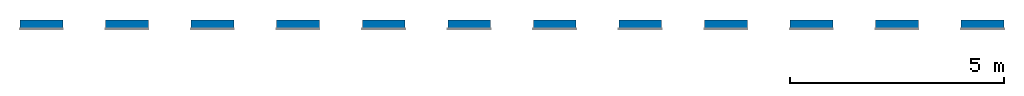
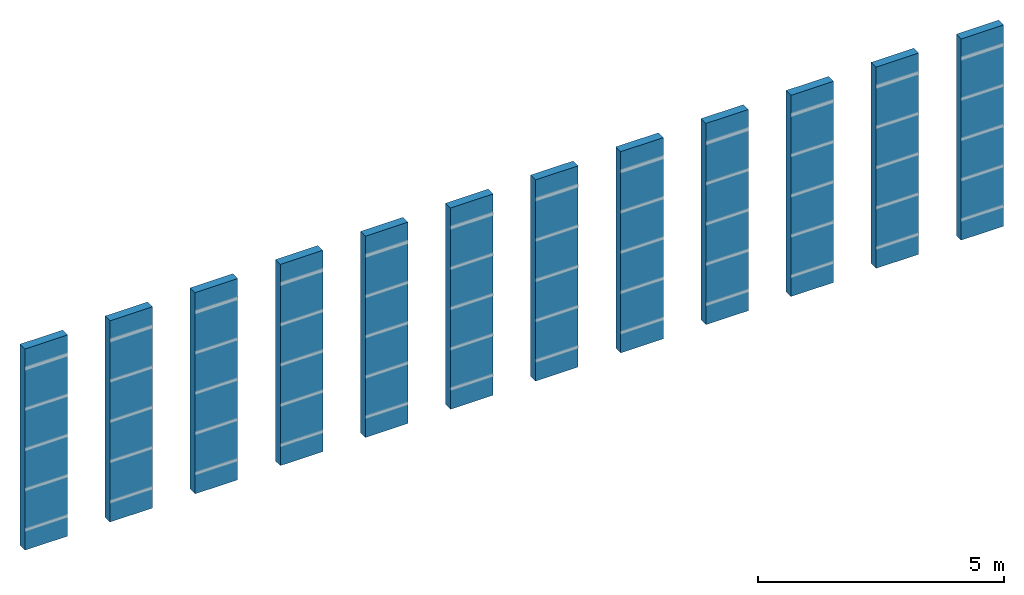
# One storey, part 1 of 4: 12 walls.
"""IFC2X3 building model written with IfcOpenShell, lengths in millimetres."""

import ifcopenshell
import ifcopenshell.guid

model = None  # the IFC model being written
_history = None  # IfcOwnerHistory: only IFC2X3 demands one
_inside = {}  # id of a spatial element -> (the spatial element, [elements in it])
_under = {}  # id of a project, library or spatial element -> (it, [spatial elements below it])
_declared = {}  # id of a project -> (the project, [libraries it declares])
_typed = {}  # id of a type object -> (the type object, [elements of that type])
_made_of = {}  # id of a material, layer set ... -> (it, [elements and type objects made of it])


def new_model(schema):
    """Start an empty IFC model of exactly this schema.

    Asked for "IFC4X3", IfcOpenShell would pick the latest addendum, in which some entities
    have other attributes; the version numbers below select the first issue.
    IFC2X3 requires an IfcOwnerHistory on every rooted entity: one is made here for all.
    """
    global model, _history
    if schema == "IFC4X3":
        model = ifcopenshell.file(schema_version=(4, 3, 0, 0))
    else:
        model = ifcopenshell.file(schema=schema)
    _inside.clear()
    _under.clear()
    _declared.clear()
    _typed.clear()
    _made_of.clear()
    _history = None
    if model.schema == "IFC2X3":
        org = make("IfcOrganization", Name="unknown")
        user = make(
            "IfcPersonAndOrganization",
            ThePerson=make("IfcPerson", FamilyName="unknown"),
            TheOrganization=org,
        )
        app = make(
            "IfcApplication",
            ApplicationDeveloper=org,
            Version="unknown",
            ApplicationFullName="unknown",
            ApplicationIdentifier="unknown",
        )
        _history = make(
            "IfcOwnerHistory",
            OwningUser=user,
            OwningApplication=app,
            ChangeAction="ADDED",
            CreationDate=0,
        )
    return model


def make(cls, **values):
    """One entity of the class cls with the attributes given. An attribute that is None is left unset."""
    return model.create_entity(
        cls, **{name: value for name, value in values.items() if value is not None}
    )


def entity(cls, *values):
    """Any entity or typed value of the class cls, its attributes in the order of the schema. None: left unset."""
    e = model.create_entity(cls)
    for i, value in enumerate(values):
        if value is not None:
            e[i] = value
    return e


def rooted(cls, **values):
    """An entity with a GlobalId (a new one), such as an element, a storey or a relation."""
    return make(cls, GlobalId=ifcopenshell.guid.new(), OwnerHistory=_history, **values)


def si_unit(unit_type, name, prefix=None):
    """IfcSIUnit, for example si_unit("LENGTHUNIT", "METRE", prefix="MILLI")."""
    return make("IfcSIUnit", UnitType=unit_type, Prefix=prefix, Name=name)


def converted_unit(unit_type, name, factor, base, dimensions=None, offset=None):
    """IfcConversionBasedUnit, such as the inch: factor (a typed value) times the base unit."""
    return make(
        "IfcConversionBasedUnit"
        if offset is None
        else "IfcConversionBasedUnitWithOffset",
        ConversionOffset=offset,
        Dimensions=None
        if dimensions is None
        else entity("IfcDimensionalExponents", *dimensions),
        UnitType=unit_type,
        Name=name,
        ConversionFactor=make(
            "IfcMeasureWithUnit", ValueComponent=factor, UnitComponent=base
        ),
    )


def derived_unit(unit_type, elements):
    """IfcDerivedUnit: a product of units, each with its exponent."""
    return make(
        "IfcDerivedUnit",
        Elements=[
            make("IfcDerivedUnitElement", Unit=unit, Exponent=power)
            for unit, power in elements
        ],
        UnitType=unit_type,
    )


def assignment(units):
    """IfcUnitAssignment: the units of a project."""
    return None if units is None else make("IfcUnitAssignment", Units=units)


def point(xyz):
    """IfcCartesianPoint."""
    return None if xyz is None else make("IfcCartesianPoint", Coordinates=xyz)


def direction(xyz):
    """IfcDirection."""
    return None if xyz is None else make("IfcDirection", DirectionRatios=xyz)


def frame(location, z_axis=None, x_axis=None):
    """IfcAxis2Placement3D, a coordinate frame: its origin and axes. An axis left out is left unset."""
    return make(
        "IfcAxis2Placement3D",
        Location=point(location),
        Axis=direction(z_axis),
        RefDirection=direction(x_axis),
    )


def frame_2d(location, x_axis=None):
    """IfcAxis2Placement2D, a coordinate frame in the plane: its origin and x axis."""
    return make(
        "IfcAxis2Placement2D", Location=point(location), RefDirection=direction(x_axis)
    )


def origin():
    """The frame at (0, 0, 0) with its axes left unset."""
    return frame((0.0, 0.0, 0.0))


def place(relative_to, where):
    """IfcLocalPlacement: puts the frame where relative to a parent placement (None: the world)."""
    return make(
        "IfcLocalPlacement", PlacementRelTo=relative_to, RelativePlacement=where
    )


def context(
    kind, dimensions, precision=None, world=None, true_north=None, identifier=None
):
    """IfcGeometricRepresentationContext, for example the 3D "Model" context."""
    return make(
        "IfcGeometricRepresentationContext",
        ContextIdentifier=identifier,
        ContextType=kind,
        CoordinateSpaceDimension=dimensions,
        Precision=precision,
        WorldCoordinateSystem=world,
        TrueNorth=true_north,
    )


def subcontext(parent, identifier, kind, view, scale=None):
    """IfcGeometricRepresentationSubContext, for example "Body" below "Model"."""
    return make(
        "IfcGeometricRepresentationSubContext",
        ContextIdentifier=identifier,
        ContextType=kind,
        ParentContext=parent,
        TargetScale=scale,
        TargetView=view,
    )


def project(units=None, contexts=None):
    """IfcProject with its units and contexts."""
    return rooted(
        "IfcProject",
        Name="project",
        RepresentationContexts=contexts,
        UnitsInContext=assignment(units),
    )


def spatial(cls, under=None, at=None, **own):
    """A site, building, storey or space (cls), placed at a placement, below another one or the project."""
    s = rooted(cls, ObjectPlacement=at, **own)
    if under is not None:
        _under.setdefault(under.id(), (under, []))[1].append(s)
    return s


def profile(cls, at=None, kind="AREA", **sizes):
    """A parametric profile (cls). Its sizes go by their IFC names, for example OverallWidth=200.0."""
    return make(cls, ProfileType=kind, Position=at, **sizes)


def rectangle(**sizes):
    """IfcRectangleProfileDef."""
    return profile("IfcRectangleProfileDef", **sizes)


def extrude(swept, where, along, depth):
    """IfcExtrudedAreaSolid: the profile swept, set in the frame where, extruded along a direction by depth."""
    return make(
        "IfcExtrudedAreaSolid",
        SweptArea=swept,
        Position=where,
        ExtrudedDirection=direction(along),
        Depth=depth,
    )


def shape(context_of_items, identifier, shape_type, items):
    """IfcShapeRepresentation: the items that make up one representation, for example the "Body"."""
    return make(
        "IfcShapeRepresentation",
        ContextOfItems=context_of_items,
        RepresentationIdentifier=identifier,
        RepresentationType=shape_type,
        Items=items,
    )


def made_of(thing, what):
    """Note that an element or type object is made of a material, layer set ...; save() writes the relation."""
    if what is not None:
        _made_of.setdefault(what.id(), (what, []))[1].append(thing)
    return thing


def type_object(cls, material=None, **own):
    """A type object (cls), such as IfcWallType, which elements share."""
    return made_of(rooted(cls, **own), material)


def element(
    cls,
    number,
    at=None,
    inside=None,
    cuts=None,
    type_object=None,
    material=None,
    context=None,
    identifier="Body",
    shape_type=None,
    held_by="IfcProductDefinitionShape",
    body=None,
    shapes=None,
    **own,
):
    """One element of the class cls, such as IfcWall. Its Tag is "e" and its number.

    at: its placement. inside: the storey or other place that contains it. cuts: it is an
    opening in that element (IfcRelVoidsElement). A single representation is given by context,
    identifier, shape_type and body (its items); several are given by shapes. held_by: the class
    of the entity that holds the representations. save() writes the other relations.
    """
    e = rooted(cls, Tag="e%d" % number, ObjectPlacement=at, **own)
    if body is not None:
        shapes = [shape(context, identifier, shape_type, body)]
    if shapes is not None:
        e.Representation = make(held_by, Representations=shapes)
    if inside is not None:
        _inside.setdefault(inside.id(), (inside, []))[1].append(e)
    if cuts is not None:
        rooted(
            "IfcRelVoidsElement", RelatingBuildingElement=cuts, RelatedOpeningElement=e
        )
    if type_object is not None:
        _typed.setdefault(type_object.id(), (type_object, []))[1].append(e)
    return made_of(e, material)


def aggregate(whole, parts):
    """IfcRelAggregates: a whole, such as a stair, and the parts it consists of."""
    return rooted("IfcRelAggregates", RelatingObject=whole, RelatedObjects=parts)


def save(model, path):
    """Write the relations noted so far, then the file.

    IfcRelAggregates (storeys below a building ...), IfcRelContainedInSpatialStructure (elements
    in a storey), IfcRelDefinesByType, IfcRelAssociatesMaterial and IfcRelDeclares: one each for
    every whole, place, type object, material and project.
    """
    for whole, parts in _under.values():
        aggregate(whole, parts)
    for where, things in _inside.values():
        rooted(
            "IfcRelContainedInSpatialStructure",
            RelatedElements=things,
            RelatingStructure=where,
        )
    for kind, things in _typed.values():
        rooted("IfcRelDefinesByType", RelatedObjects=things, RelatingType=kind)
    for what, things in _made_of.values():
        rooted("IfcRelAssociatesMaterial", RelatedObjects=things, RelatingMaterial=what)
    for by, libraries in _declared.values():
        rooted("IfcRelDeclares", RelatingContext=by, RelatedDefinitions=libraries)
    model.write(path)


model = new_model("IFC2X3")

# Units and contexts
model_context = context("Model", 3, precision=0.01, world=origin(), true_north=direction((6.12303176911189e-17, 1.0)))
body_context = subcontext(model_context, "Body", "Model", "MODEL_VIEW")
ifc_project = project(units=[si_unit("LENGTHUNIT", "METRE", prefix="MILLI"), si_unit("AREAUNIT", "SQUARE_METRE"), si_unit("VOLUMEUNIT", "CUBIC_METRE"), converted_unit("PLANEANGLEUNIT", "DEGREE", entity("IfcRatioMeasure", 0.0174532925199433), si_unit("PLANEANGLEUNIT", "RADIAN"), dimensions=[0, 0, 0, 0, 0, 0, 0]), si_unit("MASSUNIT", "GRAM", prefix="KILO"), derived_unit("MASSDENSITYUNIT", [(si_unit("MASSUNIT", "GRAM", prefix="KILO"), 1), (si_unit("LENGTHUNIT", "METRE"), -3)]), derived_unit("MOMENTOFINERTIAUNIT", [(si_unit("LENGTHUNIT", "METRE"), 4)]), si_unit("TIMEUNIT", "SECOND"), si_unit("FREQUENCYUNIT", "HERTZ"), si_unit("THERMODYNAMICTEMPERATUREUNIT", "DEGREE_CELSIUS"), derived_unit("THERMALTRANSMITTANCEUNIT", [(si_unit("MASSUNIT", "GRAM", prefix="KILO"), 1), (si_unit("THERMODYNAMICTEMPERATUREUNIT", "KELVIN"), -1), (si_unit("TIMEUNIT", "SECOND"), -3)]), derived_unit("VOLUMETRICFLOWRATEUNIT", [(si_unit("LENGTHUNIT", "METRE"), 3), (si_unit("TIMEUNIT", "SECOND"), -1)]), si_unit("ELECTRICCURRENTUNIT", "AMPERE"), si_unit("ELECTRICVOLTAGEUNIT", "VOLT"), si_unit("POWERUNIT", "WATT"), si_unit("FORCEUNIT", "NEWTON", prefix="KILO"), si_unit("ILLUMINANCEUNIT", "LUX"), si_unit("LUMINOUSFLUXUNIT", "LUMEN"), si_unit("LUMINOUSINTENSITYUNIT", "CANDELA"), derived_unit("USERDEFINED", [(si_unit("MASSUNIT", "GRAM", prefix="KILO"), -1), (si_unit("LENGTHUNIT", "METRE"), -2), (si_unit("TIMEUNIT", "SECOND"), 3), (si_unit("LUMINOUSFLUXUNIT", "LUMEN"), 1)]), derived_unit("LINEARVELOCITYUNIT", [(si_unit("LENGTHUNIT", "METRE"), 1), (si_unit("TIMEUNIT", "SECOND"), -1)]), si_unit("PRESSUREUNIT", "PASCAL"), derived_unit("USERDEFINED", [(si_unit("LENGTHUNIT", "METRE"), -2), (si_unit("MASSUNIT", "GRAM", prefix="KILO"), 1), (si_unit("TIMEUNIT", "SECOND"), -2)]), derived_unit("LINEARFORCEUNIT", [(si_unit("MASSUNIT", "GRAM", prefix="KILO"), 1), (si_unit("LENGTHUNIT", "METRE"), 1), (si_unit("TIMEUNIT", "SECOND"), -2), (si_unit("LENGTHUNIT", "METRE"), -1)]), derived_unit("PLANARFORCEUNIT", [(si_unit("MASSUNIT", "GRAM", prefix="KILO"), 1), (si_unit("LENGTHUNIT", "METRE"), 1), (si_unit("TIMEUNIT", "SECOND"), -2), (si_unit("LENGTHUNIT", "METRE"), -2)])], contexts=[model_context])

# Site, building, storey
site_placement = place(None, origin())
site = spatial("IfcSite", under=ifc_project, at=site_placement, Name="Default", CompositionType="ELEMENT")
building_placement = place(site_placement, origin())
building = spatial("IfcBuilding", under=site, at=building_placement, CompositionType="ELEMENT")
storey_placement = place(building_placement, origin())
storey = spatial("IfcBuildingStorey", under=building, at=storey_placement, Name="Level 1", CompositionType="ELEMENT", Elevation=0.0)

# Walls
wall_type = type_object("IfcWallType", Name="Basic Wall:Wall 1", PredefinedType="STANDARD")
for number, where, name in (
    (1, (5592.00231570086, -6873.11532249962, -17998.5084139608), "Basic Wall:Wall 1"),
    (2, (7592.00231570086, -6873.11532249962, -17998.5084139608), "Basic Wall:Wall 1"),
    (3, (9592.00231570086, -6873.11532249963, -17998.5084139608), "Basic Wall:Wall 1"),
):
    element("IfcWallStandardCase", number, at=place(storey_placement, frame(where)), inside=storey, type_object=wall_type, Name=name, ObjectType="Basic Wall:Wall 1", context=body_context, shape_type="SweptSolid", body=[
        extrude(rectangle(XDim=1000.0, YDim=200.0, at=frame_2d((500.000000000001, 3.5527136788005e-14), x_axis=(-1.0, 0.0))), origin(), (0.0, 0.0, 1.0), 5000.0),
    ])
for number, where, name in (
    (4, (11592.0023157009, -6873.11532249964, -17998.5084139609), "Basic Wall:Wall 1"),
    (5, (13592.0023157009, -6873.11532249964, -17998.5084139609), "Basic Wall:Wall 1"),
    (6, (15592.0023157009, -6873.11532249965, -17998.5084139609), "Basic Wall:Wall 1"),
    (7, (17592.0023157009, -6873.11532249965, -17998.5084139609), "Basic Wall:Wall 1"),
):
    element("IfcWallStandardCase", number, at=place(storey_placement, frame(where)), inside=storey, type_object=wall_type, Name=name, ObjectType="Basic Wall:Wall 1", context=body_context, shape_type="SweptSolid", body=[
        extrude(rectangle(XDim=1000.0, YDim=200.0, at=frame_2d((500.0, 3.5527136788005e-14), x_axis=(-1.0, 0.0))), origin(), (0.0, 0.0, 1.0), 5000.0),
    ])
for number, where, name in (
    (8, (19592.0023157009, -6873.11532249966, -17998.5084139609), "Basic Wall:Wall 1"),
    (9, (21592.0023157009, -6873.11532249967, -17998.5084139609), "Basic Wall:Wall 1"),
):
    element("IfcWallStandardCase", number, at=place(storey_placement, frame(where)), inside=storey, type_object=wall_type, Name=name, ObjectType="Basic Wall:Wall 1", context=body_context, shape_type="SweptSolid", body=[
        extrude(rectangle(XDim=1000.0, YDim=200.0, at=frame_2d((500.000000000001, 3.5527136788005e-14), x_axis=(-1.0, 0.0))), origin(), (0.0, 0.0, 1.0), 5000.0),
    ])
wall_1_placement = place(storey_placement, frame((23592.0023157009, -6873.11532249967, -17998.5084139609)))
element("IfcWallStandardCase", 10, at=wall_1_placement, inside=storey, type_object=wall_type, Name="Basic Wall:Wall 1", ObjectType="Basic Wall:Wall 1", context=body_context, shape_type="SweptSolid", body=[
    extrude(rectangle(XDim=1000.0, YDim=200.0, at=frame_2d((500.000000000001, 3.5527136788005e-14), x_axis=(-1.0, 0.0))), origin(), (0.0, 0.0, 1.0), 5000.00000000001),
])
wall_2_placement = place(storey_placement, frame((25592.0023157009, -6873.11532249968, -17998.5084139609)))
element("IfcWallStandardCase", 11, at=wall_2_placement, inside=storey, type_object=wall_type, Name="Basic Wall:Wall 1", ObjectType="Basic Wall:Wall 1", context=body_context, shape_type="SweptSolid", body=[
    extrude(rectangle(XDim=1000.0, YDim=200.0, at=frame_2d((500.000000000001, 3.5527136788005e-14), x_axis=(-1.0, 0.0))), origin(), (0.0, 0.0, 1.0), 5000.0),
])
wall_3_placement = place(storey_placement, frame((27592.0023157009, -6873.11532249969, -17998.5084139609)))
element("IfcWallStandardCase", 12, at=wall_3_placement, inside=storey, type_object=wall_type, Name="Basic Wall:Wall 1", ObjectType="Basic Wall:Wall 1", context=body_context, shape_type="SweptSolid", body=[
    extrude(rectangle(XDim=1000.0, YDim=200.0, at=frame_2d((500.000000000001, 3.5527136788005e-14), x_axis=(-1.0, 0.0))), origin(), (0.0, 0.0, 1.0), 5000.00000000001),
])

save(model, "model.ifc")
